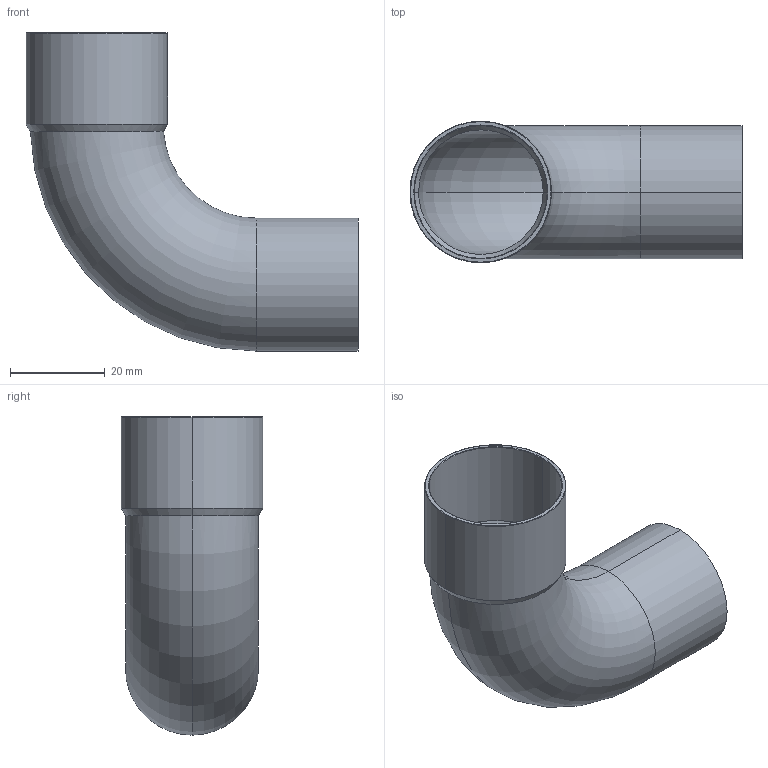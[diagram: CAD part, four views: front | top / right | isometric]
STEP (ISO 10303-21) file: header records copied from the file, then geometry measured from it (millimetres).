
FILE_DESCRIPTION((''),'2;1');
FILE_NAME('P:\Bouwmaten\z-maattekeningen 3D\5000\5001a\15001a28.stp','2005-10-04T14:40:16',('Kris'),(''),'Autodesk Inventor 8','Autodesk Inventor 8','');
FILE_SCHEMA(('AUTOMOTIVE_DESIGN { 1 0 10303 214 1 1 1 1 }'));
Length unit declared in the file: millimetre
Products named in the file (1): 15001a28
Bounding box: 69.9 x 29.8 x 67 mm (x, y, z)
Volume: 7289.7 mm3; surface area: 16349 mm2
Topology: 1 solids, 1 shells, 22 faces, 46 edges, 26 vertices
Faces by surface type: cone 8, cylinder 8, torus 4, plane 2
Entity records: 679 total; most frequent: CARTESIAN_POINT 171, DIRECTION 114, ORIENTED_EDGE 92, AXIS2_PLACEMENT_3D 49, EDGE_CURVE 46, VERTEX_POINT 26, CIRCLE 26, EDGE_LOOP 24
